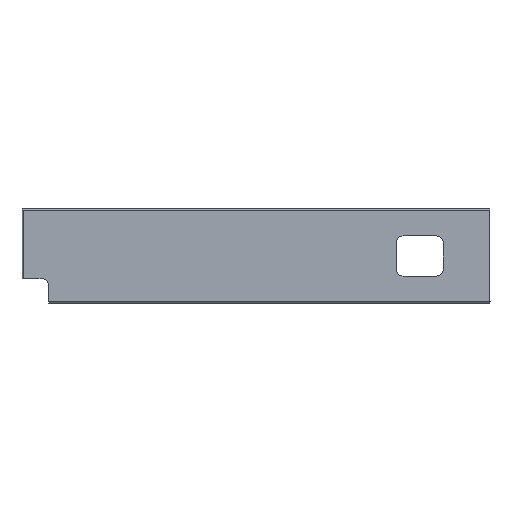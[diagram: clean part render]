
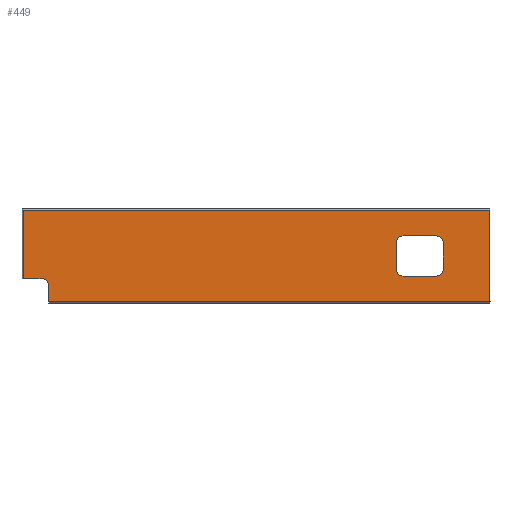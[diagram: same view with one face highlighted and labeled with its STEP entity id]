
A CAD part, top view. The second image highlights one B-rep face of the part: STEP entity #449.
In plain terms, the highlighted planar face has unit normal (-0.001, 0, 1).
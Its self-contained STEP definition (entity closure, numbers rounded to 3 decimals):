
#14 = VECTOR ( 'NONE', #354, 1000. ) ;
#26 = VERTEX_POINT ( 'NONE', #508 ) ;
#27 = DIRECTION ( 'NONE',  ( -1., 0., -0.001 ) ) ;
#31 = LINE ( 'NONE', #781, #731 ) ;
#37 = EDGE_CURVE ( 'NONE', #826, #712, #555, .T. ) ;
#40 = EDGE_CURVE ( 'NONE', #826, #703, #193, .T. ) ;
#46 = CARTESIAN_POINT ( 'NONE',  ( -333.176, -499999.603, -360.534 ) ) ;
#56 = EDGE_CURVE ( 'NONE', #747, #270, #231, .T. ) ;
#59 = ORIENTED_EDGE ( 'NONE', *, *, #664, .F. ) ;
#65 = CARTESIAN_POINT ( 'NONE',  ( 234.444, 74.044, -247.7 ) ) ;
#66 = ORIENTED_EDGE ( 'NONE', *, *, #100, .T. ) ;
#74 = ORIENTED_EDGE ( 'NONE', *, *, #629, .F. ) ;
#76 = DIRECTION ( 'NONE',  ( 0., 1., 0. ) ) ;
#81 = CARTESIAN_POINT ( 'NONE',  ( -295.556, 50.047, -248.128 ) ) ;
#100 = EDGE_CURVE ( 'NONE', #124, #400, #222, .T. ) ;
#108 = DIRECTION ( 'NONE',  ( 0., -1., 0. ) ) ;
#112 = AXIS2_PLACEMENT_3D ( 'NONE', #707, #247, #628 ) ;
#118 = CARTESIAN_POINT ( 'NONE',  ( -294.786, 60.047, -248.125 ) ) ;
#124 = VERTEX_POINT ( 'NONE', #392 ) ;
#128 = VERTEX_POINT ( 'NONE', #475 ) ;
#135 = CARTESIAN_POINT ( 'NONE',  ( 224.444, 64.044, -247.71 ) ) ;
#140 = ORIENTED_EDGE ( 'NONE', *, *, #202, .T. ) ;
#145 = CARTESIAN_POINT ( 'NONE',  ( -305.556, 50.047, -248.136 ) ) ;
#147 = LINE ( 'NONE', #659, #217 ) ;
#149 = CARTESIAN_POINT ( 'NONE',  ( 603.793, 162.66, -247.386 ) ) ;
#150 = PLANE ( 'NONE',  #250 ) ;
#156 = EDGE_CURVE ( 'NONE', #763, #400, #31, .T. ) ;
#170 = LINE ( 'NONE', #679, #291 ) ;
#182 = ORIENTED_EDGE ( 'NONE', *, *, #748, .T. ) ;
#183 = EDGE_CURVE ( 'NONE', #479, #372, #318, .T. ) ;
#193 = LINE ( 'NONE', #135, #753 ) ;
#199 = CARTESIAN_POINT ( 'NONE',  ( 294.444, 74.044, -247.652 ) ) ;
#202 = EDGE_CURVE ( 'NONE', #763, #128, #340, .T. ) ;
#205 = VERTEX_POINT ( 'NONE', #627 ) ;
#206 = ORIENTED_EDGE ( 'NONE', *, *, #794, .F. ) ;
#214 = CARTESIAN_POINT ( 'NONE',  ( 284.444, 114.044, -247.651 ) ) ;
#217 = VECTOR ( 'NONE', #76, 1000. ) ;
#222 = LINE ( 'NONE', #471, #662 ) ;
#231 = CIRCLE ( 'NONE', #342, 10. ) ;
#236 = LINE ( 'NONE', #559, #588 ) ;
#238 = ORIENTED_EDGE ( 'NONE', *, *, #56, .T. ) ;
#239 = EDGE_CURVE ( 'NONE', #278, #712, #170, .T. ) ;
#247 = DIRECTION ( 'NONE',  ( 0.001, 0., -1. ) ) ;
#250 = AXIS2_PLACEMENT_3D ( 'NONE', #667, #677, #546 ) ;
#256 = AXIS2_PLACEMENT_3D ( 'NONE', #65, #708, #321 ) ;
#266 = CARTESIAN_POINT ( 'NONE',  ( 224.444, 114.044, -247.699 ) ) ;
#270 = VERTEX_POINT ( 'NONE', #772 ) ;
#278 = VERTEX_POINT ( 'NONE', #266 ) ;
#289 = DIRECTION ( 'NONE',  ( -1., 0., -0.001 ) ) ;
#291 = VECTOR ( 'NONE', #108, 1000. ) ;
#292 = VERTEX_POINT ( 'NONE', #199 ) ;
#297 = CIRCLE ( 'NONE', #112, 10. ) ;
#307 = EDGE_CURVE ( 'NONE', #278, #205, #651, .T. ) ;
#318 = CIRCLE ( 'NONE', #527, 10. ) ;
#321 = DIRECTION ( 'NONE',  ( -1., 0., -0.001 ) ) ;
#335 = ORIENTED_EDGE ( 'NONE', *, *, #541, .T. ) ;
#336 = DIRECTION ( 'NONE',  ( 0.001, 0., -1. ) ) ;
#339 = ORIENTED_EDGE ( 'NONE', *, *, #183, .T. ) ;
#340 = LINE ( 'NONE', #149, #595 ) ;
#342 = AXIS2_PLACEMENT_3D ( 'NONE', #214, #604, #790 ) ;
#354 = DIRECTION ( 'NONE',  ( -1., 0., -0.001 ) ) ;
#358 = AXIS2_PLACEMENT_3D ( 'NONE', #381, #779, #457 ) ;
#370 = CARTESIAN_POINT ( 'NONE',  ( 224.444, 74.044, -247.708 ) ) ;
#372 = VERTEX_POINT ( 'NONE', #81 ) ;
#381 = CARTESIAN_POINT ( 'NONE',  ( 234.444, 114.044, -247.691 ) ) ;
#383 = DIRECTION ( 'NONE',  ( 1., 0., 0.001 ) ) ;
#392 = CARTESIAN_POINT ( 'NONE',  ( -295.556, 25.427, -248.133 ) ) ;
#400 = VERTEX_POINT ( 'NONE', #448 ) ;
#437 = ORIENTED_EDGE ( 'NONE', *, *, #239, .F. ) ;
#442 = CARTESIAN_POINT ( 'NONE',  ( 284.444, 124.044, -247.649 ) ) ;
#447 = EDGE_CURVE ( 'NONE', #747, #205, #726, .T. ) ;
#448 = CARTESIAN_POINT ( 'NONE',  ( 364.444, 25.427, -247.607 ) ) ;
#449 = ADVANCED_FACE ( 'NONE', ( #617, #489 ), #150, .F. ) ;
#457 = DIRECTION ( 'NONE',  ( -1., 0., -0.001 ) ) ;
#466 = DIRECTION ( 'NONE',  ( 1., 0., 0.001 ) ) ;
#471 = CARTESIAN_POINT ( 'NONE',  ( 603.793, 25.427, -247.417 ) ) ;
#474 = ORIENTED_EDGE ( 'NONE', *, *, #307, .T. ) ;
#475 = CARTESIAN_POINT ( 'NONE',  ( -333.176, 162.66, -248.132 ) ) ;
#479 = VERTEX_POINT ( 'NONE', #795 ) ;
#482 = EDGE_LOOP ( 'NONE', ( #694, #622, #437, #474, #775, #238, #74, #182 ) ) ;
#489 = FACE_OUTER_BOUND ( 'NONE', #665, .T. ) ;
#508 = CARTESIAN_POINT ( 'NONE',  ( -333.176, 60.047, -248.155 ) ) ;
#527 = AXIS2_PLACEMENT_3D ( 'NONE', #145, #336, #289 ) ;
#541 = EDGE_CURVE ( 'NONE', #128, #26, #737, .T. ) ;
#546 = DIRECTION ( 'NONE',  ( 0., -1., 0. ) ) ;
#555 = CIRCLE ( 'NONE', #256, 10. ) ;
#559 = CARTESIAN_POINT ( 'NONE',  ( 294.444, 64.044, -247.654 ) ) ;
#563 = ORIENTED_EDGE ( 'NONE', *, *, #156, .F. ) ;
#573 = CARTESIAN_POINT ( 'NONE',  ( 284.444, 64.044, -247.662 ) ) ;
#588 = VECTOR ( 'NONE', #636, 1000. ) ;
#595 = VECTOR ( 'NONE', #27, 1000. ) ;
#596 = CARTESIAN_POINT ( 'NONE',  ( 234.444, 64.044, -247.702 ) ) ;
#604 = DIRECTION ( 'NONE',  ( 0.001, 0., -1. ) ) ;
#617 = FACE_BOUND ( 'NONE', #482, .T. ) ;
#622 = ORIENTED_EDGE ( 'NONE', *, *, #37, .T. ) ;
#627 = CARTESIAN_POINT ( 'NONE',  ( 234.444, 124.044, -247.689 ) ) ;
#628 = DIRECTION ( 'NONE',  ( -1., 0., -0.001 ) ) ;
#629 = EDGE_CURVE ( 'NONE', #292, #270, #236, .T. ) ;
#636 = DIRECTION ( 'NONE',  ( 0., 1., 0. ) ) ;
#651 = CIRCLE ( 'NONE', #358, 10. ) ;
#657 = VECTOR ( 'NONE', #805, 1000. ) ;
#659 = CARTESIAN_POINT ( 'NONE',  ( -295.556, 22.043, -248.134 ) ) ;
#662 = VECTOR ( 'NONE', #466, 1000. ) ;
#664 = EDGE_CURVE ( 'NONE', #479, #26, #690, .T. ) ;
#665 = EDGE_LOOP ( 'NONE', ( #563, #140, #335, #59, #339, #206, #66 ) ) ;
#667 = CARTESIAN_POINT ( 'NONE',  ( 603.793, -499999.603, -359.788 ) ) ;
#677 = DIRECTION ( 'NONE',  ( 0.001, 0., -1. ) ) ;
#679 = CARTESIAN_POINT ( 'NONE',  ( 224.444, 64.044, -247.71 ) ) ;
#690 = LINE ( 'NONE', #118, #777 ) ;
#694 = ORIENTED_EDGE ( 'NONE', *, *, #40, .F. ) ;
#703 = VERTEX_POINT ( 'NONE', #573 ) ;
#707 = CARTESIAN_POINT ( 'NONE',  ( 284.444, 74.044, -247.66 ) ) ;
#708 = DIRECTION ( 'NONE',  ( 0.001, 0., -1. ) ) ;
#712 = VERTEX_POINT ( 'NONE', #370 ) ;
#726 = LINE ( 'NONE', #801, #14 ) ;
#731 = VECTOR ( 'NONE', #733, 1000. ) ;
#733 = DIRECTION ( 'NONE',  ( 0., -1., 0. ) ) ;
#737 = LINE ( 'NONE', #46, #657 ) ;
#747 = VERTEX_POINT ( 'NONE', #442 ) ;
#748 = EDGE_CURVE ( 'NONE', #292, #703, #297, .T. ) ;
#753 = VECTOR ( 'NONE', #383, 1000. ) ;
#758 = DIRECTION ( 'NONE',  ( -1., 0., -0.001 ) ) ;
#763 = VERTEX_POINT ( 'NONE', #823 ) ;
#772 = CARTESIAN_POINT ( 'NONE',  ( 294.444, 114.044, -247.643 ) ) ;
#775 = ORIENTED_EDGE ( 'NONE', *, *, #447, .F. ) ;
#777 = VECTOR ( 'NONE', #758, 1000. ) ;
#779 = DIRECTION ( 'NONE',  ( 0.001, 0., -1. ) ) ;
#781 = CARTESIAN_POINT ( 'NONE',  ( 364.444, -499999.603, -359.978 ) ) ;
#790 = DIRECTION ( 'NONE',  ( -1., 0., -0.001 ) ) ;
#794 = EDGE_CURVE ( 'NONE', #124, #372, #147, .T. ) ;
#795 = CARTESIAN_POINT ( 'NONE',  ( -305.556, 60.047, -248.133 ) ) ;
#801 = CARTESIAN_POINT ( 'NONE',  ( 224.444, 124.044, -247.697 ) ) ;
#805 = DIRECTION ( 'NONE',  ( 0., -1., 0. ) ) ;
#823 = CARTESIAN_POINT ( 'NONE',  ( 364.444, 162.66, -247.576 ) ) ;
#826 = VERTEX_POINT ( 'NONE', #596 ) ;
